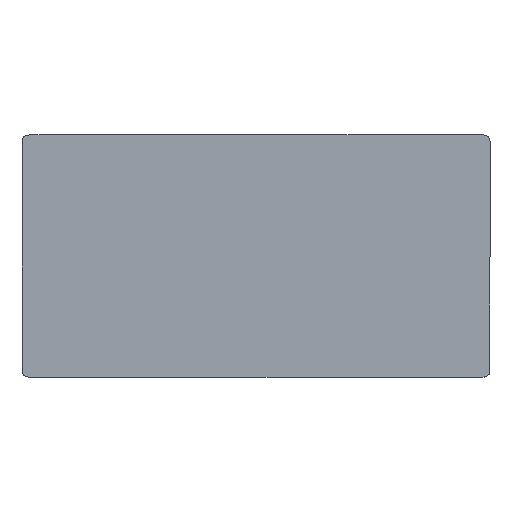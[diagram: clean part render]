
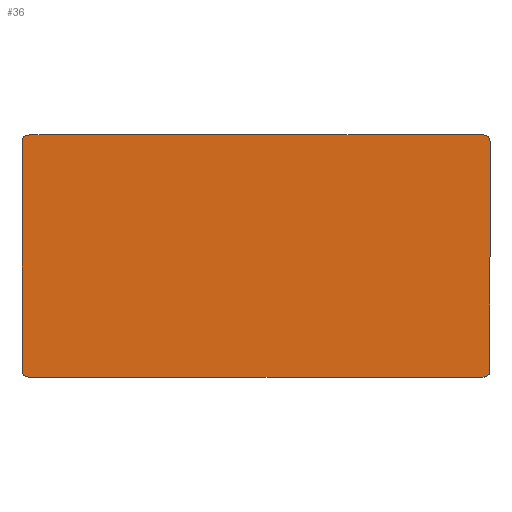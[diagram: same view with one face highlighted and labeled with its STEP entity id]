
A CAD part, top view. The second image highlights one B-rep face of the part: STEP entity #36.
In plain terms, the highlighted planar face has unit normal (0, 0, 1).
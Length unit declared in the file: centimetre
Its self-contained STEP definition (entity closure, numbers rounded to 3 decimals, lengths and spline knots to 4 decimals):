
#36=ADVANCED_FACE($,(#54),#223,.T.);
#54=FACE_OUTER_BOUND($,#72,.T.);
#72=EDGE_LOOP($,(#140,#141));
#140=ORIENTED_EDGE($,*,*,#178,.T.);
#141=ORIENTED_EDGE($,*,*,#181,.T.);
#178=EDGE_CURVE($,#203,#205,#255,.T.);
#181=EDGE_CURVE($,#205,#203,#257,.T.);
#203=VERTEX_POINT($,#783);
#205=VERTEX_POINT($,#785);
#223=PLANE($,#351);
#255=(
BOUNDED_CURVE()
B_SPLINE_CURVE(2,(#715,#716,#717,#718,#719,#720,#721,#722,#723),.UNSPECIFIED.,
.F.,.F.)
B_SPLINE_CURVE_WITH_KNOTS((3,2,2,2,3),(4334.2478,4365.6637,
5775.6637,5807.0796,6517.0796),.UNSPECIFIED.)
CURVE()
GEOMETRIC_REPRESENTATION_ITEM()
RATIONAL_B_SPLINE_CURVE((1.,0.707,1.,1.,1.,0.707,
1.,1.,1.))
REPRESENTATION_ITEM($)
);
#257=(
BOUNDED_CURVE()
B_SPLINE_CURVE(2,(#735,#736,#737,#738,#739,#740,#741,#742,#743),.UNSPECIFIED.,
.F.,.F.)
B_SPLINE_CURVE_WITH_KNOTS((3,2,2,2,3),(6517.0796,6548.4956,
7958.4956,7989.9115,8699.9115),.UNSPECIFIED.)
CURVE()
GEOMETRIC_REPRESENTATION_ITEM()
RATIONAL_B_SPLINE_CURVE((1.,0.707,1.,1.,1.,0.707,
1.,1.,1.))
REPRESENTATION_ITEM($)
);
#351=AXIS2_PLACEMENT_3D($,#763,#360,$);
#360=DIRECTION($,(0.,0.,1.));
#715=CARTESIAN_POINT($,(-8.0313,-2.8678,31.7));
#716=CARTESIAN_POINT($,(-8.0313,-4.8678,31.7));
#717=CARTESIAN_POINT($,(-6.0313,-4.8678,31.7));
#718=CARTESIAN_POINT($,(64.4687,-4.8678,31.7));
#719=CARTESIAN_POINT($,(134.9687,-4.8678,31.7));
#720=CARTESIAN_POINT($,(136.9687,-4.8678,31.7));
#721=CARTESIAN_POINT($,(136.9687,-2.8678,31.7));
#722=CARTESIAN_POINT($,(136.9687,32.6322,31.7));
#723=CARTESIAN_POINT($,(136.9687,68.1322,31.7));
#735=CARTESIAN_POINT($,(136.9687,68.1322,31.7));
#736=CARTESIAN_POINT($,(136.9687,70.1322,31.7));
#737=CARTESIAN_POINT($,(134.9687,70.1322,31.7));
#738=CARTESIAN_POINT($,(64.4687,70.1322,31.7));
#739=CARTESIAN_POINT($,(-6.0313,70.1322,31.7));
#740=CARTESIAN_POINT($,(-8.0313,70.1322,31.7));
#741=CARTESIAN_POINT($,(-8.0313,68.1322,31.7));
#742=CARTESIAN_POINT($,(-8.0313,32.6322,31.7));
#743=CARTESIAN_POINT($,(-8.0313,-2.8678,31.7));
#763=CARTESIAN_POINT($,(-8.0313,-4.8678,31.7));
#783=CARTESIAN_POINT($,(-8.0313,-2.8678,31.7));
#785=CARTESIAN_POINT($,(136.9687,68.1322,31.7));
